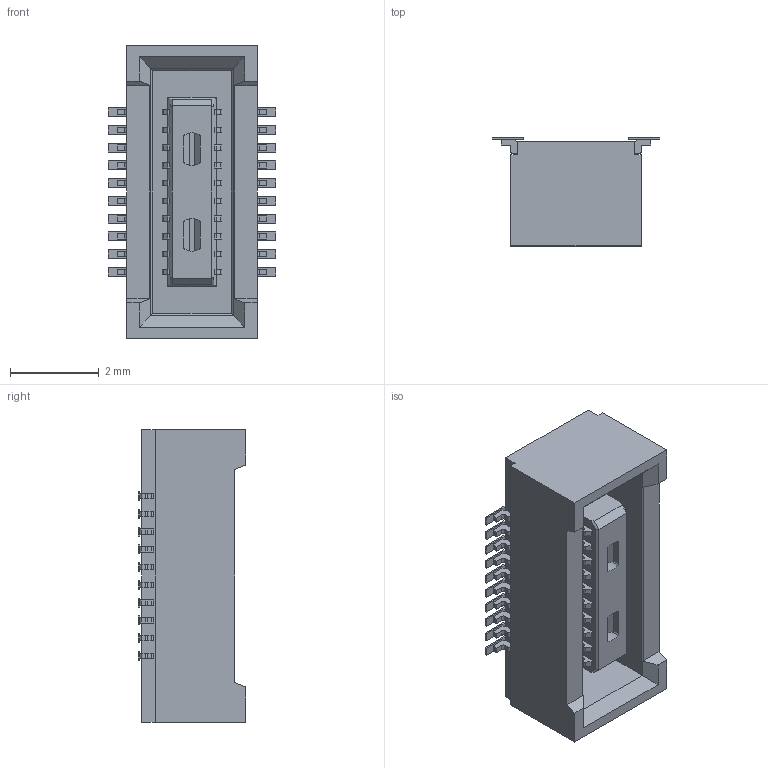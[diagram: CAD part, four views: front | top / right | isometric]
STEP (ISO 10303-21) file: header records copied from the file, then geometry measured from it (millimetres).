
FILE_DESCRIPTION (( 'STEP AP214' ), '1' );
FILE_NAME ('DF40HC(2.5)-20DS_pattern.stp', '2026-07-06T01:53:41', ( '' ), ( '' ), 'SwSTEP 2.0', 'SolidWorks 2023', '' );
FILE_SCHEMA (( 'AUTOMOTIVE_DESIGN' ));
Length unit declared in the file: millimetre
Products named in the file (1): DF40HC(2.5)-20DS_pattern
Bounding box: 3.78 x 2.44 x 6.6 mm (x, y, z)
Volume: 33.4 mm3; surface area: 124.8 mm2
Topology: 1 solids, 1 shells, 597 faces, 1572 edges, 1040 vertices
Faces by surface type: plane 465, cylinder 132
Entity records: 18273 total; most frequent: CARTESIAN_POINT 3258, ORIENTED_EDGE 3144, DIRECTION 3008, EDGE_CURVE 1572, VECTOR 1300, LINE 1300, VERTEX_POINT 1040, AXIS2_PLACEMENT_3D 854
